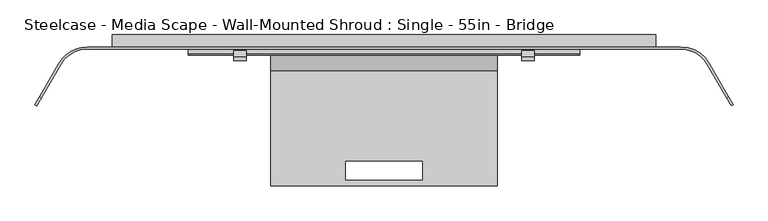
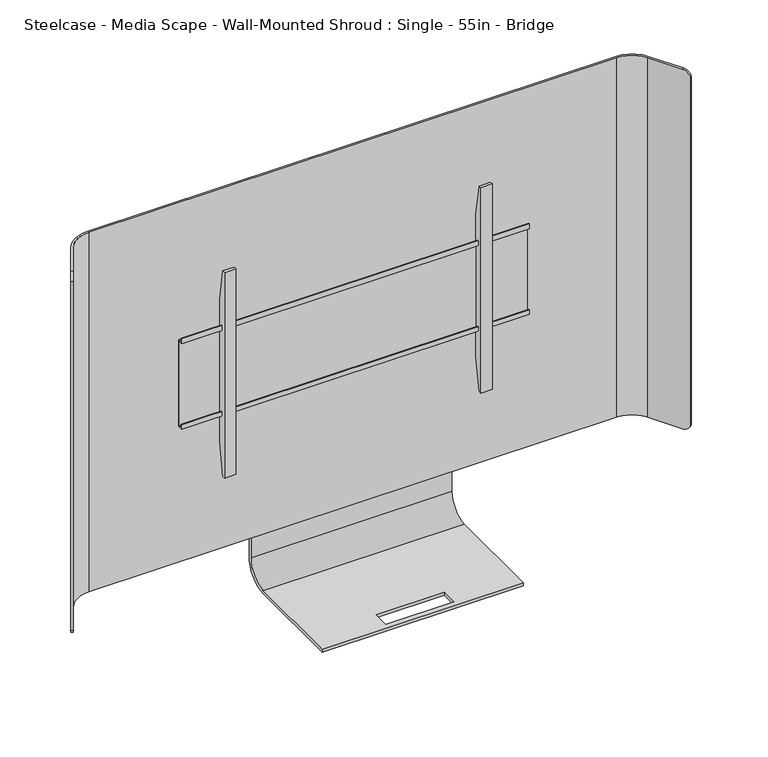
"""IFC4 building model written with IfcOpenShell, lengths in millimetres: furniture geometry, Steelcase - Media Scape - Wall-Mounted Shroud : Single - 55in - Bridge."""

from ifc_helpers import new_model, si_unit, frame, origin, place, context, project, spatial, polyline, circle_curve, outline, extrude, source, transform, mapped, element, save
from ifc_brep_helpers import plane_surface, cylinder_surface, revolved_surface, advanced_brep


def steelcase_media_scape_wall_mounted_shroud_single_55in_bridge_4c39ce80(model_context):
    return source(origin(), model_context, "Body", "SolidModel", [
        advanced_brep(
        [(234.9499879, -25.4, 783.5646188), (234.9499879, -75.8697585, 733.0948603), (234.9499879, -314.3253876, 733.0948603), (234.9499879, -314.3253876, 725.1446188), (234.9499879, -75.8696132, 725.1446188), (234.9499879, -17.4496132, 783.5646188), (234.9499879, -17.4496132, 1183.9447876), (234.9499879, -25.4, 1183.9447876), (-234.9499879, -25.4, 783.5646188), (-234.9499879, -25.4, 1183.9447876), (-234.9499879, -17.4496132, 1183.9447876), (-234.9499879, -17.4496132, 783.5646188), (-234.9499879, -75.8696132, 725.1446188), (-234.9499879, -314.3253876, 725.1446188), (-234.9499879, -314.3253876, 733.0948603), (-234.9499879, -75.8697585, 733.0948603), (-79.502, -263.5253876, 733.0948603), (79.502, -263.5253876, 733.0948603), (79.502, -301.6253876, 733.0948603), (-79.502, -301.6253876, 733.0948603), (79.502, -263.5253876, 725.1446188), (-79.502, -263.5253876, 725.1446188), (-79.502, -301.6253876, 725.1446188), (79.502, -301.6253876, 725.1446188)],
        [
            (0, 1, circle_curve(frame((234.9499879, -75.8697585, 783.5646188), z_axis=(-1.0, 0.0, 0.0), x_axis=(0.0, 1.0, 0.0)), 50.4697585)),
            (1, 2),
            (2, 3),
            (3, 4),
            (4, 5, circle_curve(frame((234.9499879, -75.8696132, 783.5646188), z_axis=(1.0, 0.0, 0.0), x_axis=(0.0, 1.0, 0.0)), 58.42)),
            (5, 6),
            (6, 7),
            (7, 0),
            (8, 9),
            (9, 10),
            (10, 11),
            (11, 12, circle_curve(frame((-234.9499879, -75.8696132, 783.5646188), z_axis=(-1.0, 0.0, 0.0), x_axis=(0.0, 1.0, 0.0)), 58.42)),
            (12, 13),
            (13, 14),
            (14, 15),
            (15, 8, circle_curve(frame((-234.9499879, -75.8697585, 783.5646188), z_axis=(1.0, 0.0, 0.0), x_axis=(0.0, 1.0, 0.0)), 50.4697585)),
            (1, 15),
            (14, 2),
            (16, 17),
            (17, 18),
            (18, 19),
            (19, 16),
            (13, 3),
            (12, 4),
            (20, 21),
            (21, 22),
            (22, 23),
            (23, 20),
            (5, 11),
            (10, 6),
            (9, 7),
            (8, 0),
            (20, 17),
            (16, 21),
            (19, 22),
            (18, 23),
        ],
        [
            plane_surface(frame((234.9499879, -25.4, 783.5646188), z_axis=(1.0, 0.0, 0.0), x_axis=(0.0, 0.0, -1.0))),
            plane_surface(frame((-234.9499879, -25.4, 783.5646188), z_axis=(-1.0, 0.0, 0.0), x_axis=(0.0, 0.0, 1.0))),
            plane_surface(frame((234.9499879, -75.8697585, 733.0948603), z_axis=(0.0, 0.0, 1.0), x_axis=(-1.0, 0.0, 0.0))),
            plane_surface(frame((234.9499879, -314.3253876, 733.0948603), z_axis=(0.0, -1.0, 0.0), x_axis=(-1.0, 0.0, 0.0))),
            plane_surface(frame((234.9499879, -314.3253876, 725.1446188), z_axis=(0.0, 0.0, -1.0), x_axis=(-1.0, 0.0, 0.0))),
            plane_surface(frame((234.9499879, -17.4496132, 783.5646188), z_axis=(0.0, 1.0, 0.0), x_axis=(-1.0, 0.0, 0.0))),
            plane_surface(frame((234.9499879, -17.4496132, 1183.9447876), z_axis=(0.0, 0.0, 1.0), x_axis=(-1.0, 0.0, 0.0))),
            plane_surface(frame((234.9499879, -25.4, 1183.9447876), z_axis=(0.0, -1.0, 0.0), x_axis=(-1.0, 0.0, 0.0))),
            revolved_surface(polyline([(-234.9499879, -25.400000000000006, 783.5646188), (234.9499879, -25.400000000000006, 783.5646188)]), (-234.9499879, -75.8697585, 783.5646188), (-1.0, 0.0, 0.0)),
            cylinder_surface(frame((-234.9499879, -75.8696132, 783.5646188), z_axis=(1.0, 0.0, 0.0), x_axis=(0.0, 1.0, 0.0)), 58.42),
            plane_surface(frame((79.502, -263.5253876, 1824.7300588), z_axis=(0.0, -1.0, 0.0), x_axis=(0.0, 0.0, -1.0))),
            plane_surface(frame((-79.502, -263.5253876, 1824.7300588), z_axis=(1.0, 0.0, 0.0), x_axis=(0.0, 0.0, -1.0))),
            plane_surface(frame((-79.502, -301.6253876, 1824.7300588), z_axis=(0.0, 1.0, 0.0), x_axis=(0.0, 0.0, -1.0))),
            plane_surface(frame((79.502, -301.6253876, 1824.7300588), z_axis=(-1.0, 0.0, 0.0), x_axis=(0.0, 0.0, -1.0))),
        ],
        [
            (0, [[1, 2, 3, 4, 5, 6, 7, 8]]),
            (1, [[9, 10, 11, 12, 13, 14, 15, 16]]),
            (2, [[-2, 17, -15, 18], [19, 20, 21, 22]]),
            (3, [[-3, -18, -14, 23]]),
            (4, [[-4, -23, -13, 24], [25, 26, 27, 28]]),
            (5, [[-6, 29, -11, 30]]),
            (6, [[-7, -30, -10, 31]]),
            (7, [[-8, -31, -9, 32]]),
            (8, [[-1, -32, -16, -17]]),
            (9, [[-5, -24, -12, -29]]),
            (10, [[33, -19, 34, -25]]),
            (11, [[-34, -22, 35, -26]]),
            (12, [[-35, -21, 36, -27]]),
            (13, [[-33, -28, -36, -20]]),
        ],
    ),
        extrude(outline(polyline([(-42.4942785, 1383.7004726), (-42.4942785, 1395.7145649), (-39.8272175, 1395.7145649), (-39.8272175, 1386.367461), (-29.9720009, 1386.367461), (-29.9720009, 1172.0422438), (-42.3164551, 1172.0422438), (-42.3164551, 1182.9642515), (-39.649394, 1182.9642515), (-39.649394, 1174.707052), (-32.6531824, 1174.707052), (-32.6531824, 1383.7004726), (-42.4942785, 1383.7004726)])), frame((-406.4, 0.0, 0.0), z_axis=(1.0, 0.0, 0.0), x_axis=(0.0, 1.0, 0.0)), (0.0, 0.0, 1.0), 812.8),
        extrude(outline(polyline([(-32.6531824, 1454.6471148), (-32.6531824, 1102.8325607), (-46.5049349, 1025.2046949), (-53.3399828, 1025.2046949), (-53.3399828, 1533.2047192), (-46.5050076, 1533.2047192), (-32.6531824, 1454.6471148)])), frame((286.6392868, 0.0, 0.0), z_axis=(1.0, 0.0, 0.0), x_axis=(0.0, 1.0, 0.0)), (0.0, 0.0, 1.0), 26.1592872),
        extrude(outline(polyline([(-32.6531824, 1454.6471148), (-32.6531824, 1102.8325607), (-46.5049349, 1025.2046949), (-53.3399828, 1025.2046949), (-53.3399828, 1533.2047192), (-46.5050076, 1533.2047192), (-32.6531824, 1454.6471148)])), frame((-312.798574, 0.0, 0.0), z_axis=(1.0, 0.0, 0.0), x_axis=(0.0, 1.0, 0.0)), (0.0, 0.0, 1.0), 26.1592872),
        advanced_brep(
        [(-671.9586135, -61.722, 1724.914), (-616.966002, -29.9720009, 1724.914), (616.966, -29.9720009, 1724.914), (671.9586135, -61.722, 1724.914), (712.079586, -131.2135628, 1724.914), (716.0390541, -128.9275628, 1724.914), (675.9180817, -59.436, 1724.914), (616.966002, -25.4, 1724.914), (-616.966, -25.4, 1724.914), (-675.9180817, -59.436, 1724.914), (-716.0421659, -128.9329524, 1724.914), (-712.0826977, -131.2189524, 1724.914), (-675.9180817, -59.436, 835.914), (-616.966002, -25.4, 835.914), (616.966, -25.4, 835.914), (675.9180817, -59.436, 835.914), (716.0906629, -129.0169518, 835.914), (712.1311948, -131.3029518, 835.914), (671.9586135, -61.722, 835.914), (616.966002, -29.9720009, 835.914), (-616.966, -29.9720009, 835.914), (-671.9586135, -61.722, 835.914), (-712.1454014, -131.3275584, 835.914), (-716.1048695, -129.0415584, 835.914), (-725.6090632, -145.5033047, 849.5242766), (-725.6090632, -145.5033047, 1710.9227735), (-721.6495951, -147.7893047, 1710.9227735), (-721.6495951, -147.7893047, 849.5242766), (721.6270866, -147.7503189, 849.4756893), (721.6270866, -147.7503189, 1711.0433849), (725.5865547, -145.4643189, 1711.0433849), (725.5865547, -145.4643189, 849.4756893)],
        [
            (0, 1, circle_curve(frame((-616.966002, -93.4719991, 1724.914), z_axis=(0.0, 0.0, -1.0), x_axis=(0.0, 1.0, 0.0)), 63.4999981)),
            (1, 2),
            (2, 3, circle_curve(frame((616.966002, -93.4719991, 1724.914), z_axis=(0.0, 0.0, -1.0), x_axis=(0.0, 1.0, 0.0)), 63.4999981)),
            (3, 4),
            (4, 5),
            (5, 6),
            (6, 7, circle_curve(frame((616.9660004, -93.472, 1724.914), z_axis=(0.0, 0.0, 1.0), x_axis=(0.0, 1.0, 0.0)), 68.072)),
            (7, 8),
            (8, 9, circle_curve(frame((-616.9660004, -93.472, 1724.914), z_axis=(0.0, 0.0, 1.0), x_axis=(0.0, 1.0, 0.0)), 68.072)),
            (9, 10),
            (10, 11),
            (11, 0),
            (12, 13, circle_curve(frame((-616.9660004, -93.472, 835.914), z_axis=(0.0, 0.0, -1.0), x_axis=(0.0, 1.0, 0.0)), 68.072)),
            (13, 14),
            (14, 15, circle_curve(frame((616.9660004, -93.472, 835.914), z_axis=(0.0, 0.0, -1.0), x_axis=(0.0, 1.0, 0.0)), 68.072)),
            (15, 16),
            (16, 17),
            (17, 18),
            (18, 19, circle_curve(frame((616.966002, -93.4719991, 835.914), z_axis=(0.0, 0.0, 1.0), x_axis=(0.0, 1.0, 0.0)), 63.4999981)),
            (19, 20),
            (20, 21, circle_curve(frame((-616.966002, -93.4719991, 835.914), z_axis=(0.0, 0.0, 1.0), x_axis=(0.0, 1.0, 0.0)), 63.4999981)),
            (21, 22),
            (22, 23),
            (23, 12),
            (0, 21),
            (20, 1),
            (8, 13),
            (12, 9),
            (23, 24, circle_curve(frame((-716.1048695, -129.0415584, 855.9928872), z_axis=(-0.8660254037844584, 0.49999999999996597, 0.0), x_axis=(-0.49999999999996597, -0.8660254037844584, 0.0)), 20.0788872)),
            (24, 25),
            (25, 10, circle_curve(frame((-716.0421659, -128.9329524, 1704.8351128), z_axis=(-0.8660254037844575, 0.4999999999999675, 0.0), x_axis=(-0.4999999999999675, -0.8660254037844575, 0.0)), 20.0788872)),
            (26, 25),
            (24, 27),
            (27, 26),
            (11, 26, circle_curve(frame((-712.0826977, -131.2189524, 1704.8351128), z_axis=(0.8660254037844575, -0.4999999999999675, 0.0), x_axis=(-0.4999999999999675, -0.8660254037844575, 0.0)), 20.0788872)),
            (27, 22, circle_curve(frame((-712.1454014, -131.3275584, 855.9928872), z_axis=(0.8660254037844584, -0.49999999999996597, 0.0), x_axis=(-0.49999999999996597, -0.8660254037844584, 0.0)), 20.0788872)),
            (7, 14),
            (19, 2),
            (3, 18),
            (17, 28, circle_curve(frame((712.1311948, -131.3029518, 855.9928872), z_axis=(-0.8660254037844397, -0.49999999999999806, 0.0), x_axis=(0.49999999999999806, -0.8660254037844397, 0.0)), 20.0788872)),
            (28, 29),
            (29, 4, circle_curve(frame((712.079586, -131.2135628, 1704.8351128), z_axis=(-0.8660254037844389, -0.49999999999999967, 0.0), x_axis=(0.49999999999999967, -0.8660254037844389, 0.0)), 20.0788872)),
            (30, 29),
            (28, 31),
            (31, 30),
            (15, 6),
            (5, 30, circle_curve(frame((716.0390541, -128.9275628, 1704.8351128), z_axis=(0.8660254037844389, 0.49999999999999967, 0.0), x_axis=(0.49999999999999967, -0.8660254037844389, 0.0)), 20.0788872)),
            (31, 16, circle_curve(frame((716.0906629, -129.0169518, 855.9928872), z_axis=(0.8660254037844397, 0.49999999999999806, 0.0), x_axis=(0.49999999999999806, -0.8660254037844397, 0.0)), 20.0788872)),
        ],
        [
            plane_surface(frame((-616.966002, -29.9720009, 1724.914), z_axis=(0.0, 0.0, 1.0), x_axis=(1.0, 0.0, 0.0))),
            plane_surface(frame((-616.966002, -29.9720009, 835.914), z_axis=(0.0, 0.0, -1.0), x_axis=(-1.0, 0.0, 0.0))),
            revolved_surface(polyline([(-616.966002, -29.972001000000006, 835.914), (-616.966002, -29.972001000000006, 1724.914)]), (-616.966002, -93.4719991, 835.914), (0.0, 0.0, -1.0)),
            cylinder_surface(frame((-616.9660004, -93.472, 835.914), z_axis=(0.0, 0.0, 1.0), x_axis=(0.0, 1.0, 0.0)), 68.072),
            plane_surface(frame((-675.9180817, -59.436, 1724.914), z_axis=(-0.8660254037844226, 0.5000000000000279, 0.0), x_axis=(0.0, 0.0, -1.0))),
            plane_surface(frame((-725.6090632, -145.5033047, 1724.914), z_axis=(-0.5000000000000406, -0.8660254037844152, 0.0), x_axis=(0.0, 0.0, -1.0))),
            plane_surface(frame((-721.6495951, -147.7893047, 1724.914), z_axis=(0.8660254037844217, -0.5000000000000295, 0.0), x_axis=(0.0, 0.0, -1.0))),
            plane_surface(frame((616.966, -25.4, 1724.914), z_axis=(0.0, 1.0, 0.0), x_axis=(0.0, 0.0, -1.0))),
            plane_surface(frame((-616.966, -29.9720009, 1724.914), z_axis=(0.0, -1.0, 0.0), x_axis=(0.0, 0.0, -1.0))),
            plane_surface(frame((671.9586135, -61.722, 1724.914), z_axis=(-0.8660254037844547, -0.4999999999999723, 0.0), x_axis=(0.0, 0.0, -1.0))),
            plane_surface(frame((721.6270866, -147.7503189, 1724.914), z_axis=(0.4999999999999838, -0.866025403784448, 0.0), x_axis=(0.0, 0.0, -1.0))),
            plane_surface(frame((725.5865547, -145.4643189, 1724.914), z_axis=(0.8660254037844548, 0.49999999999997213, 0.0), x_axis=(0.0, 0.0, -1.0))),
            cylinder_surface(frame((616.9660004, -93.472, 835.914), z_axis=(0.0, 0.0, 1.0), x_axis=(0.0, 1.0, 0.0)), 68.072),
            revolved_surface(polyline([(616.966002, -29.972001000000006, 835.914), (616.966002, -29.972001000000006, 1724.914)]), (616.966002, -93.4719991, 835.914), (0.0, 0.0, -1.0)),
            cylinder_surface(frame((-712.0826977, -131.2189524, 1704.8351128), z_axis=(0.8660254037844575, -0.4999999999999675, 0.0), x_axis=(-0.4999999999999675, -0.8660254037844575, 0.0)), 20.0788872),
            cylinder_surface(frame((-712.1454014, -131.3275584, 855.9928872), z_axis=(0.8660254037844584, -0.49999999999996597, 0.0), x_axis=(-0.49999999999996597, -0.8660254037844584, 0.0)), 20.0788872),
            cylinder_surface(frame((727.1864297, -122.4916225, 1704.8351128), z_axis=(0.8660254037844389, 0.49999999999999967, 0.0), x_axis=(0.49999999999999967, -0.8660254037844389, 0.0)), 20.0788872),
            cylinder_surface(frame((724.3789695, -124.2316958, 855.9928872), z_axis=(0.8660254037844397, 0.49999999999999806, 0.0), x_axis=(0.49999999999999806, -0.8660254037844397, 0.0)), 20.0788872),
        ],
        [
            (0, [[1, 2, 3, 4, 5, 6, 7, 8, 9, 10, 11, 12]]),
            (1, [[13, 14, 15, 16, 17, 18, 19, 20, 21, 22, 23, 24]]),
            (2, [[-1, 25, -21, 26]]),
            (3, [[-9, 27, -13, 28]]),
            (4, [[-28, -24, 29, 30, 31, -10]]),
            (5, [[32, -30, 33, 34]]),
            (6, [[-25, -12, 35, -34, 36, -22]]),
            (7, [[-8, 37, -14, -27]]),
            (8, [[-2, -26, -20, 38]]),
            (9, [[39, -18, 40, 41, 42, -4]]),
            (10, [[43, -41, 44, 45]]),
            (11, [[46, -6, 47, -45, 48, -16]]),
            (12, [[-7, -46, -15, -37]]),
            (13, [[-3, -38, -19, -39]]),
            (14, [[-11, -31, -32, -35]]),
            (15, [[-23, -36, -33, -29]]),
            (16, [[-5, -42, -43, -47]]),
            (17, [[-17, -48, -44, -40]]),
        ],
    ),
        extrude(outline(polyline([(912.1648167, 501.6499879), (912.1648167, 565.15), (1648.714, 565.15), (1648.714, -565.15), (912.1648167, -565.15), (912.1648167, -502.6433465), (1585.2139516, -502.6433465), (1585.2139516, 501.6499879), (912.1648167, 501.6499879)])), frame((0.0, -25.4, 0.0), z_axis=(0.0, 1.0, 0.0), x_axis=(0.0, 0.0, 1.0)), (0.0, 0.0, 1.0), 25.4),
    ])


if __name__ == "__main__":
    model = new_model("IFC4")
    model_context = context("Model", 3, world=origin())
    ifc_project = project(units=[si_unit("LENGTHUNIT", "METRE", prefix="MILLI")], contexts=[model_context])
    site = spatial("IfcSite", under=ifc_project)
    building = spatial("IfcBuilding", under=site)
    placement = place(None, origin())
    steelcase_media_scape_wall_mounted_shroud_single_55in_bridge_shape = steelcase_media_scape_wall_mounted_shroud_single_55in_bridge_4c39ce80(model_context)
    element("IfcFurniture", 1, ObjectType="Steelcase - Media Scape - Wall-Mounted Shroud : Single - 55in - Bridge", at=placement, inside=building, context=model_context, shape_type="MappedRepresentation", body=[
        mapped(steelcase_media_scape_wall_mounted_shroud_single_55in_bridge_shape, transform((0.0, 0.0, 0.0), x_axis=(1.0, 0.0, 0.0), y_axis=(0.0, 1.0, 0.0), z_axis=(0.0, 0.0, 1.0))),
    ])
    save(model, "model.ifc")
